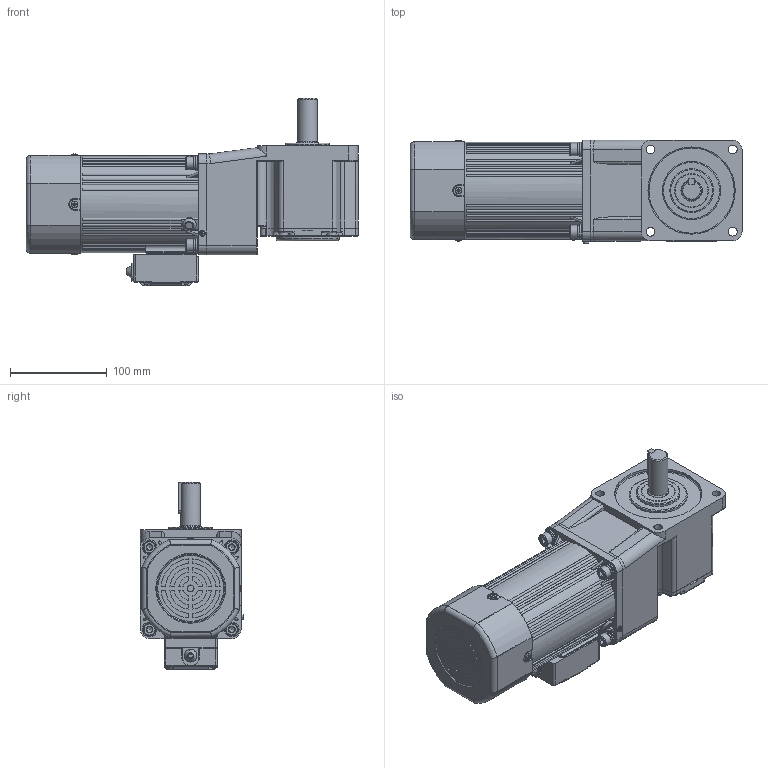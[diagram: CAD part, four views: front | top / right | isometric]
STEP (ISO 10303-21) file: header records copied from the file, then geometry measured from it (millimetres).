
FILE_DESCRIPTION(/* description */ (''),/* implementation_level */ '2;1');
FILE_NAME(/* name */ '100+直角中实-刹车风叶-160-250W 新版长款接线盒.stp',/* time_stamp */ '2025-04-07T20:03:48+08:00',/* author */ (''),/* organization */ (''),/* preprocessor_version */ 'ST-DEVELOPER v18.102',/* originating_system */ 'SIEMENS PLM Software NX 2027',/* authorisation */ '');
FILE_SCHEMA (('AP203_CONFIGURATION_CONTROLLED_3D_DESIGN_OF_MECHANICAL_PARTS_AND_ASSEMBLIES_MIM_LF { 1 0 10303 403 2 1 2}'));
Products named in the file (1): 100+直角中实-刹车风叶-160-250W 新版_
stp_M0663750A5DFc0td
Bounding box: 342.5 x 106.83 x 193.5 mm (x, y, z)
Volume: 3334673.8 mm3; surface area: 452466 mm2
Topology: 26 solids, 26 shells, 2324 faces, 6035 edges, 3865 vertices
Faces by surface type: plane 1035, cylinder 764, bspline 224, torus 148, cone 109, sphere 44
Full cylindrical faces by diameter (mm): 2.2 x2, 2.6 x2, 2.7 x1, 2.9 x4, 3 x3, 3.2 x2, 3.3 x4, 3.5 x6, 3.6 x4, 4 x4, 4.2 x1, 4.8 x1, 5.1 x2, 5.6 x4, 6 x12, 6.8 x12, 7 x3, 7.5 x2, 7.76 x4, 8 x1, 8.4 x4, 9 x13, 9.3 x1, 9.5 x4, 10 x2, 13 x4, 14 x8, 15 x5, 15.5 x2, 19 x2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
Entity records: 72538 total; most frequent: CARTESIAN_POINT 17992, ORIENTED_EDGE 11188, DIRECTION 10896, EDGE_CURVE 5594, AXIS2_PLACEMENT_3D 4202, VERTEX_POINT 3730, EDGE_LOOP 2837, LINE 2492
